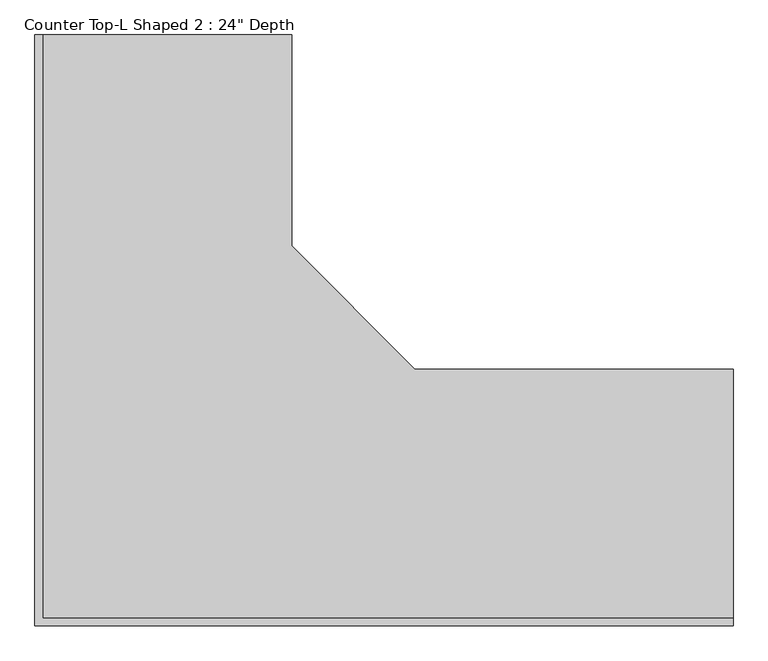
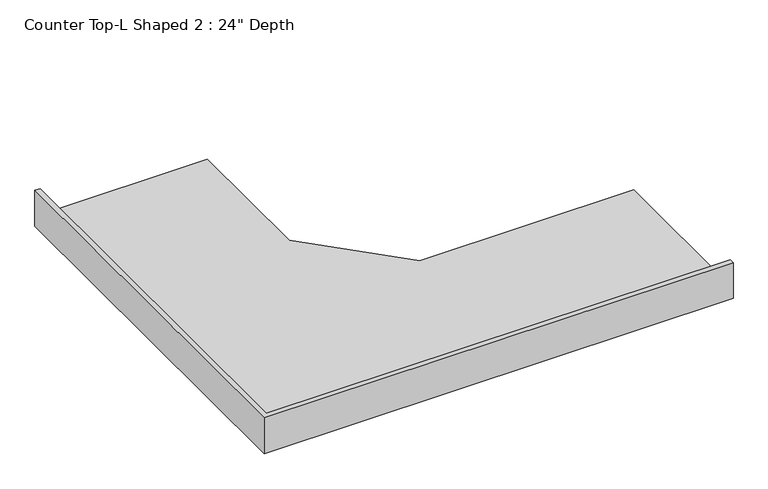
"""IFC4 building model written with IfcOpenShell, lengths in millimetres: furniture geometry."""

from ifc_helpers import new_model, si_unit, origin, place, context, project, spatial, faceted_brep, source, transform, mapped, element, save


def furniture_eb782f3a(model_context):
    return source(origin(), model_context, "Body", "Brep", [
        faceted_brep([(-565.4622951, 1461.5446213, 914.4), (-1181.4122951, 1461.5446213, 914.4), (-1181.4122951, 19.05, 914.4), (526.7377049, 19.05, 914.4), (526.7377049, 635.0, 914.4), (-260.6622951, 635.0, 914.4), (-565.4622951, 939.8, 914.4), (526.7377049, 0.0, 876.3), (-1200.4622951, 0.0, 876.3), (-1200.4622951, 1461.5446213, 876.3), (-565.4622951, 1461.5446213, 876.3), (-565.4622951, 939.8, 876.3), (-260.6622951, 635.0, 876.3), (526.7377049, 635.0, 876.3), (526.7377049, 0.0, 1016.0), (-1200.4622951, 0.0, 1016.0), (-1200.4622951, 1461.5446213, 1016.0), (-1181.4122951, 1461.5446213, 1016.0), (526.7377049, 19.05, 1016.0), (-1181.4122951, 19.05, 1016.0)], [[[0, 1, 2, 3, 4, 5, 6]], [[7, 8, 9, 10, 11, 12, 13]], [[7, 14, 15, 8]], [[8, 15, 16, 9]], [[16, 17, 1, 0, 10, 9]], [[6, 11, 10, 0]], [[5, 12, 11, 6]], [[4, 13, 12, 5]], [[13, 4, 3, 18, 14, 7]], [[15, 14, 18, 19, 17, 16]], [[3, 2, 19, 18]], [[19, 2, 1, 17]]]),
    ])


if __name__ == "__main__":
    model = new_model("IFC4")
    model_context = context("Model", 3, world=origin())
    ifc_project = project(units=[si_unit("LENGTHUNIT", "METRE", prefix="MILLI")], contexts=[model_context])
    site = spatial("IfcSite", under=ifc_project)
    building = spatial("IfcBuilding", under=site)
    placement = place(None, origin())
    furniture_shape = furniture_eb782f3a(model_context)
    element("IfcFurniture", 1, ObjectType="Counter Top-L Shaped 2 : 24\" Depth", at=placement, inside=building, context=model_context, shape_type="MappedRepresentation", body=[
        mapped(furniture_shape, transform((0.0, 0.0, 0.0), x_axis=(1.0, 0.0, 0.0), y_axis=(0.0, 1.0, 0.0), z_axis=(0.0, 0.0, 1.0))),
    ])
    save(model, "model.ifc")
